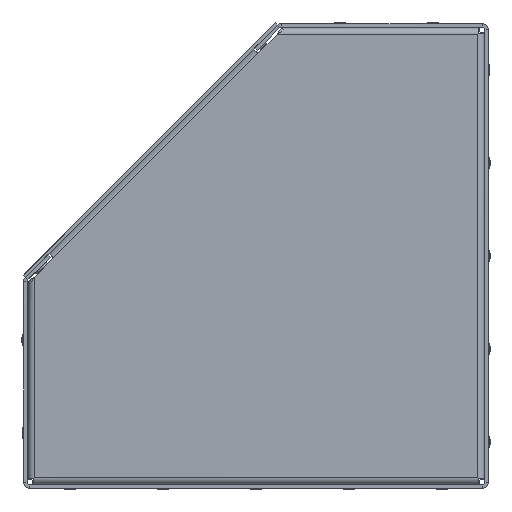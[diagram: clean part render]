
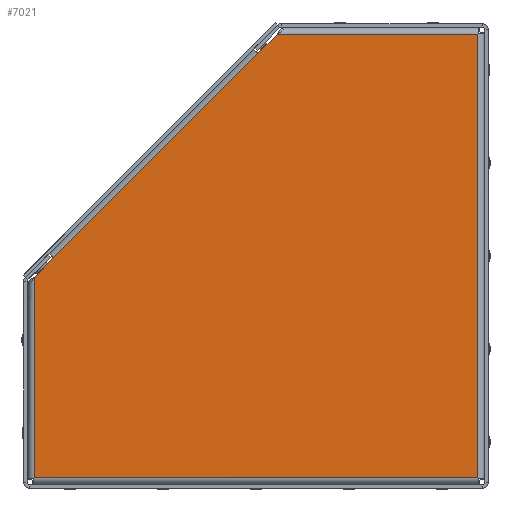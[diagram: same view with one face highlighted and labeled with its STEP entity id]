
A CAD part, left-side view. The second image highlights one B-rep face of the part: STEP entity #7021.
In plain terms, the highlighted planar face has unit normal (-1, 0, 0) as drawn and (1, 0, 0) by its records, which use the part's own axes.
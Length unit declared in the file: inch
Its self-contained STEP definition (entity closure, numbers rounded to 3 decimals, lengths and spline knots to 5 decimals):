
#368 = EDGE_CURVE ( 'NONE', #10881, #8641, #13186, .T. ) ;
#924 = ORIENTED_EDGE ( 'NONE', *, *, #4145, .T. ) ;
#1073 = LINE ( 'NONE', #6091, #12642 ) ;
#1095 = EDGE_CURVE ( 'NONE', #1666, #2180, #11059, .T. ) ;
#1164 = LINE ( 'NONE', #6905, #6784 ) ;
#1666 = VERTEX_POINT ( 'NONE', #11828 ) ;
#1852 = VECTOR ( 'NONE', #11456, 39.37008 ) ;
#2180 = VERTEX_POINT ( 'NONE', #8866 ) ;
#2637 = CARTESIAN_POINT ( 'NONE',  ( 0., 4.73908, -0.42108 ) ) ;
#2811 = EDGE_CURVE ( 'NONE', #8641, #4586, #8778, .T. ) ;
#3269 = AXIS2_PLACEMENT_3D ( 'NONE', #11749, #5079, #12925 ) ;
#3634 = CARTESIAN_POINT ( 'NONE',  ( 0., 9.13092, -4.81292 ) ) ;
#3640 = EDGE_LOOP ( 'NONE', ( #924, #13589, #8047, #4185, #8564, #4868, #9684 ) ) ;
#3692 = CARTESIAN_POINT ( 'NONE',  ( 0., 9.552, -5.234 ) ) ;
#3923 = PLANE ( 'NONE',  #3269 ) ;
#4113 = DIRECTION ( 'NONE',  ( 0., -0.707, 0.707 ) ) ;
#4145 = EDGE_CURVE ( 'NONE', #4586, #1666, #5207, .T. ) ;
#4170 = EDGE_CURVE ( 'NONE', #11182, #12716, #9276, .T. ) ;
#4185 = ORIENTED_EDGE ( 'NONE', *, *, #4170, .T. ) ;
#4338 = CARTESIAN_POINT ( 'NONE',  ( 0., 4.318, 0. ) ) ;
#4586 = VERTEX_POINT ( 'NONE', #4338 ) ;
#4868 = ORIENTED_EDGE ( 'NONE', *, *, #368, .T. ) ;
#5079 = DIRECTION ( 'NONE',  ( 1., 0., 0. ) ) ;
#5207 = LINE ( 'NONE', #5824, #13793 ) ;
#5255 = EDGE_CURVE ( 'NONE', #12716, #10881, #1164, .T. ) ;
#5716 = DIRECTION ( 'NONE',  ( 0., -0.707, 0.707 ) ) ;
#5778 = VECTOR ( 'NONE', #5716, 39.37008 ) ;
#5824 = CARTESIAN_POINT ( 'NONE',  ( 0., 4.318, 0. ) ) ;
#6091 = CARTESIAN_POINT ( 'NONE',  ( 0., 0., -9.552 ) ) ;
#6237 = FACE_OUTER_BOUND ( 'NONE', #3640, .T. ) ;
#6784 = VECTOR ( 'NONE', #8035, 39.37008 ) ;
#6905 = CARTESIAN_POINT ( 'NONE',  ( 0., 9.552, -5.234 ) ) ;
#6909 = CARTESIAN_POINT ( 'NONE',  ( 0., 0., 0. ) ) ;
#6976 = DIRECTION ( 'NONE',  ( 0., -1., 0. ) ) ;
#7021 = ADVANCED_FACE ( 'NONE', ( #6237 ), #3923, .T. ) ;
#8035 = DIRECTION ( 'NONE',  ( 0., -0.707, 0.707 ) ) ;
#8039 = DIRECTION ( 'NONE',  ( 0., 0., -1. ) ) ;
#8047 = ORIENTED_EDGE ( 'NONE', *, *, #10302, .T. ) ;
#8442 = VECTOR ( 'NONE', #8039, 39.37008 ) ;
#8564 = ORIENTED_EDGE ( 'NONE', *, *, #5255, .T. ) ;
#8641 = VERTEX_POINT ( 'NONE', #2637 ) ;
#8778 = LINE ( 'NONE', #8795, #5778 ) ;
#8795 = CARTESIAN_POINT ( 'NONE',  ( 0., 9.552, -5.234 ) ) ;
#8866 = CARTESIAN_POINT ( 'NONE',  ( 0., 0., -9.552 ) ) ;
#9276 = LINE ( 'NONE', #10342, #1852 ) ;
#9684 = ORIENTED_EDGE ( 'NONE', *, *, #2811, .T. ) ;
#10302 = EDGE_CURVE ( 'NONE', #2180, #11182, #1073, .T. ) ;
#10342 = CARTESIAN_POINT ( 'NONE',  ( 0., 9.552, -9.552 ) ) ;
#10881 = VERTEX_POINT ( 'NONE', #3634 ) ;
#10897 = CARTESIAN_POINT ( 'NONE',  ( 0., 9.13092, -4.81292 ) ) ;
#10904 = VECTOR ( 'NONE', #4113, 39.37008 ) ;
#11059 = LINE ( 'NONE', #6909, #8442 ) ;
#11182 = VERTEX_POINT ( 'NONE', #13028 ) ;
#11456 = DIRECTION ( 'NONE',  ( 0., 0., 1. ) ) ;
#11725 = DIRECTION ( 'NONE',  ( 0., 1., 0. ) ) ;
#11749 = CARTESIAN_POINT ( 'NONE',  ( 0., 0., 0. ) ) ;
#11828 = CARTESIAN_POINT ( 'NONE',  ( 0., 0., 0. ) ) ;
#12642 = VECTOR ( 'NONE', #11725, 39.37008 ) ;
#12716 = VERTEX_POINT ( 'NONE', #3692 ) ;
#12925 = DIRECTION ( 'NONE',  ( 0., 0., -1. ) ) ;
#13028 = CARTESIAN_POINT ( 'NONE',  ( 0., 9.552, -9.552 ) ) ;
#13186 = LINE ( 'NONE', #10897, #10904 ) ;
#13589 = ORIENTED_EDGE ( 'NONE', *, *, #1095, .T. ) ;
#13793 = VECTOR ( 'NONE', #6976, 39.37008 ) ;
